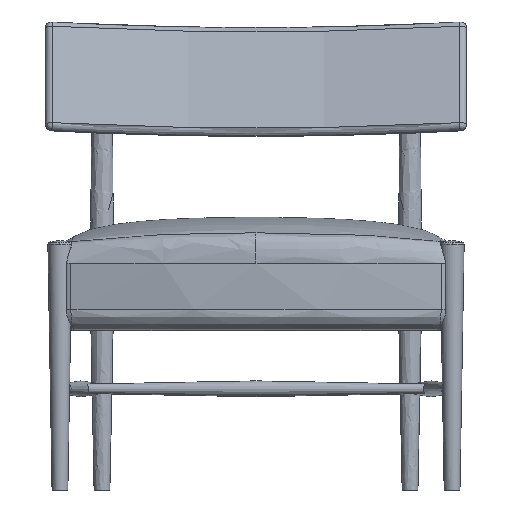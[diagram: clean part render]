
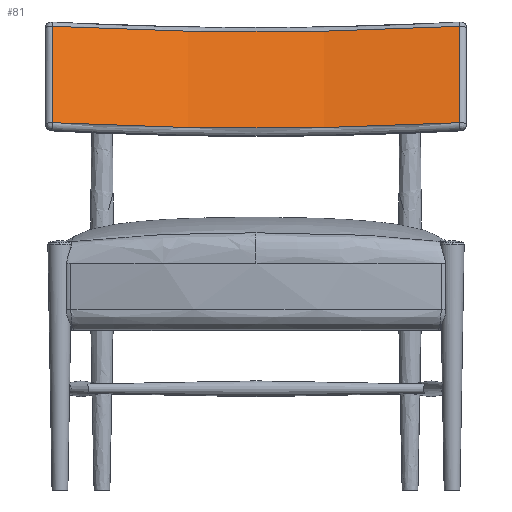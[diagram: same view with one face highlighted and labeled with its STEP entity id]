
A CAD part, front view. The second image highlights one B-rep face of the part: STEP entity #81.
In plain terms, the highlighted free-form (B-spline) face has degree [2, 1] with [3, 2] control points.
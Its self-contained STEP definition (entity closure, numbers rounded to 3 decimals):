
#81=ADVANCED_FACE('',(#171),#1191,.T.);
#171=FACE_OUTER_BOUND('',#261,.T.);
#261=EDGE_LOOP('',(#513,#514,#515,#516));
#513=ORIENTED_EDGE('',*,*,#786,.F.);
#514=ORIENTED_EDGE('',*,*,#784,.T.);
#515=ORIENTED_EDGE('',*,*,#785,.F.);
#516=ORIENTED_EDGE('',*,*,#783,.F.);
#783=EDGE_CURVE('',#1119,#1120,#891,.T.);
#784=EDGE_CURVE('',#1121,#1122,#892,.T.);
#785=EDGE_CURVE('',#1120,#1122,#893,.T.);
#786=EDGE_CURVE('',#1121,#1119,#894,.T.);
#891=(
BOUNDED_CURVE()
B_SPLINE_CURVE(2,(#9644,#9645,#9646),.UNSPECIFIED.,.F.,.F.)
B_SPLINE_CURVE_WITH_KNOTS((3,3),(9.949,659.981),
 .UNSPECIFIED.)
CURVE()
GEOMETRIC_REPRESENTATION_ITEM()
RATIONAL_B_SPLINE_CURVE((1.,0.985,1.))
REPRESENTATION_ITEM('')
);
#892=(
BOUNDED_CURVE()
B_SPLINE_CURVE(2,(#9647,#9648,#9649),.UNSPECIFIED.,.F.,.F.)
B_SPLINE_CURVE_WITH_KNOTS((3,3),(9.949,659.981),
 .UNSPECIFIED.)
CURVE()
GEOMETRIC_REPRESENTATION_ITEM()
RATIONAL_B_SPLINE_CURVE((1.,0.985,1.))
REPRESENTATION_ITEM('')
);
#893=(
BOUNDED_CURVE()
B_SPLINE_CURVE(1,(#9650,#9651),.UNSPECIFIED.,.F.,.F.)
B_SPLINE_CURVE_WITH_KNOTS((2,2),(9.9,170.1),.UNSPECIFIED.)
CURVE()
GEOMETRIC_REPRESENTATION_ITEM()
RATIONAL_B_SPLINE_CURVE((1.,1.))
REPRESENTATION_ITEM('')
);
#894=(
BOUNDED_CURVE()
B_SPLINE_CURVE(1,(#9652,#9653),.UNSPECIFIED.,.F.,.F.)
B_SPLINE_CURVE_WITH_KNOTS((2,2),(9.9,170.1),.UNSPECIFIED.)
CURVE()
GEOMETRIC_REPRESENTATION_ITEM()
RATIONAL_B_SPLINE_CURVE((1.,1.))
REPRESENTATION_ITEM('')
);
#1119=VERTEX_POINT('',#9620);
#1120=VERTEX_POINT('',#9621);
#1121=VERTEX_POINT('',#9622);
#1122=VERTEX_POINT('',#9623);
#1191=(
BOUNDED_SURFACE()
B_SPLINE_SURFACE(2,1,((#9190,#9191),(#9192,#9193),(#9194,#9195)),
 .UNSPECIFIED.,.F.,.F.,.F.)
B_SPLINE_SURFACE_WITH_KNOTS((3,3),(2,2),(2591.848,3258.279),
(0.,180.),.UNSPECIFIED.)
GEOMETRIC_REPRESENTATION_ITEM()
RATIONAL_B_SPLINE_SURFACE(((1.,1.),(0.984,0.984),
(1.,1.)))
REPRESENTATION_ITEM('')
SURFACE()
);
#9190=CARTESIAN_POINT('',(-331.484,217.977,571.881));
#9191=CARTESIAN_POINT('',(-331.484,273.6,743.071));
#9192=CARTESIAN_POINT('',(0.,274.281,553.586));
#9193=CARTESIAN_POINT('',(0.,329.904,724.776));
#9194=CARTESIAN_POINT('',(331.484,217.977,571.881));
#9195=CARTESIAN_POINT('',(331.484,273.6,743.071));
#9620=CARTESIAN_POINT('',(-321.784,272.163,733.128));
#9621=CARTESIAN_POINT('',(321.784,272.163,733.128));
#9622=CARTESIAN_POINT('',(-321.784,222.659,580.769));
#9623=CARTESIAN_POINT('',(321.784,222.659,580.769));
#9644=CARTESIAN_POINT('',(-321.784,272.163,733.128));
#9645=CARTESIAN_POINT('',(0.,325.172,715.905));
#9646=CARTESIAN_POINT('',(321.784,272.163,733.128));
#9647=CARTESIAN_POINT('',(-321.784,222.659,580.769));
#9648=CARTESIAN_POINT('',(0.,275.667,563.545));
#9649=CARTESIAN_POINT('',(321.784,222.659,580.769));
#9650=CARTESIAN_POINT('',(321.784,272.163,733.128));
#9651=CARTESIAN_POINT('',(321.784,222.659,580.769));
#9652=CARTESIAN_POINT('',(-321.784,222.659,580.769));
#9653=CARTESIAN_POINT('',(-321.784,272.163,733.128));
